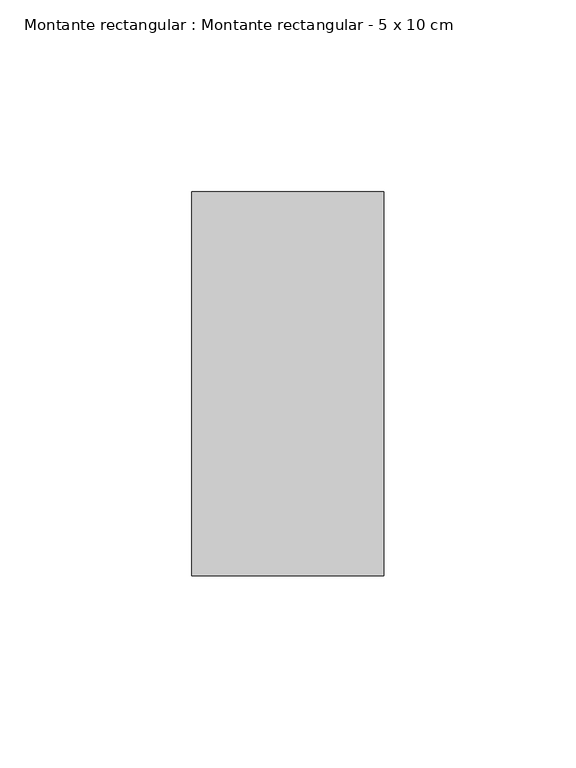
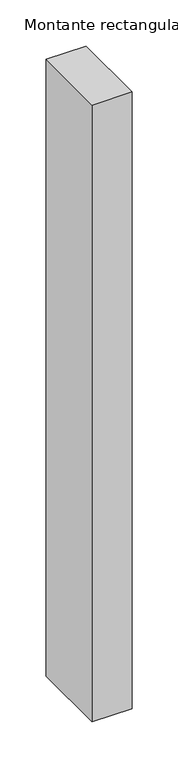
"""IFC4 building model written with IfcOpenShell, lengths in millimetres: member geometry, Montante rectangular : Montante rectangular - 5 x 10 cm."""

from ifc_helpers import new_model, si_unit, frame, origin, place, context, project, spatial, polyline, outline, extrude, source, transform, mapped, element, save


def montante_rectangular_montante_rectangular_5_x_10_cm_65fa954f(model_context):
    return source(origin(), model_context, "Body", "SweptSolid", [
        extrude(outline(polyline([(0.0, -50.0), (-50.0, -50.0), (-50.0, 50.0), (0.0, 50.0), (0.0, -50.0)])), frame((0.0, 0.0, -816.6666667), z_axis=(0.0, 0.0, 1.0), x_axis=(1.0, 0.0, 0.0)), (0.0, 0.0, 1.0), 816.6666667),
    ])


if __name__ == "__main__":
    model = new_model("IFC4")
    model_context = context("Model", 3, world=origin())
    ifc_project = project(units=[si_unit("LENGTHUNIT", "METRE", prefix="MILLI")], contexts=[model_context])
    site = spatial("IfcSite", under=ifc_project)
    building = spatial("IfcBuilding", under=site)
    placement = place(None, origin())
    montante_rectangular_montante_rectangular_5_x_10_cm_shape = montante_rectangular_montante_rectangular_5_x_10_cm_65fa954f(model_context)
    element("IfcMember", 1, ObjectType="Montante rectangular : Montante rectangular - 5 x 10 cm", at=placement, inside=building, context=model_context, shape_type="MappedRepresentation", body=[
        mapped(montante_rectangular_montante_rectangular_5_x_10_cm_shape, transform((0.0, 0.0, 0.0), x_axis=(1.0, 0.0, 0.0), y_axis=(0.0, 1.0, 0.0), z_axis=(0.0, 0.0, 1.0))),
    ])
    save(model, "model.ifc")
